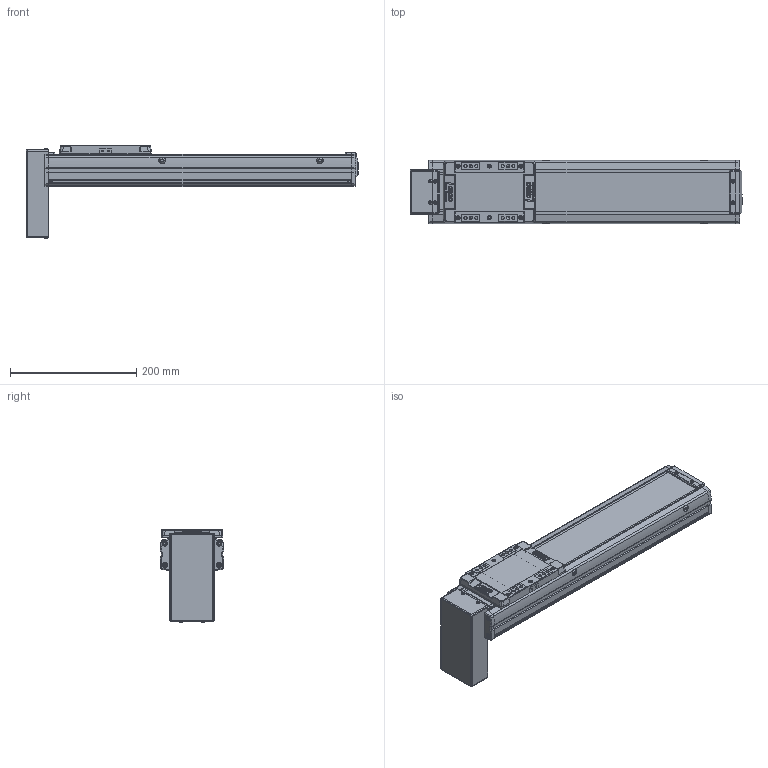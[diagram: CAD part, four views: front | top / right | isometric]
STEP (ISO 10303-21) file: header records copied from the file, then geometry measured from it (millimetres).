
FILE_DESCRIPTION(('STEP AP214'),'1');
FILE_NAME('Z:/Web/3D/SAN100/SAN100 양산용 (STEP)/SAN100ㅁㅁ-300PB.stp','2013-04-25T06:49:16',(' '),(' '),'Spatial InterOp 3D',' ',' ');
FILE_SCHEMA(('automotive_design'));
Length unit declared in the file: millimetre
Products named in the file (37): BTCV-SAN100; M3.0 x 6.0; 스크루 : Round - M4.0 x 10.0; FRCV-SAN100; SUS COVER; SFX-SAN100; RRCV-SAN100; 스크루 : Round - M3.0 x 6.0; FRBL-SAN100; SLBL-SAN100; SLCV-SAN100; 스크루 : Countersunk - M3.0 x 6.0; BASE; 스크루 : Round - M5.0 x 6.0
Bounding box: 526.5 x 100 x 148.36 mm (x, y, z)
Volume: 1762060.3 mm3; surface area: 412936.7 mm2
Topology: 37 solids, 38 shells, 2002 faces, 5194 edges, 3345 vertices
Faces by surface type: plane 1007, cylinder 719, cone 182, sphere 52, torus 30, bspline 12
Entity records: 78584 total; most frequent: CARTESIAN_POINT 11624, DIRECTION 11027, ORIENTED_EDGE 10232, EDGE_CURVE 5116, AXIS2_PLACEMENT_3D 3969, VERTEX_POINT 3345, LINE 3089, VECTOR 3089
